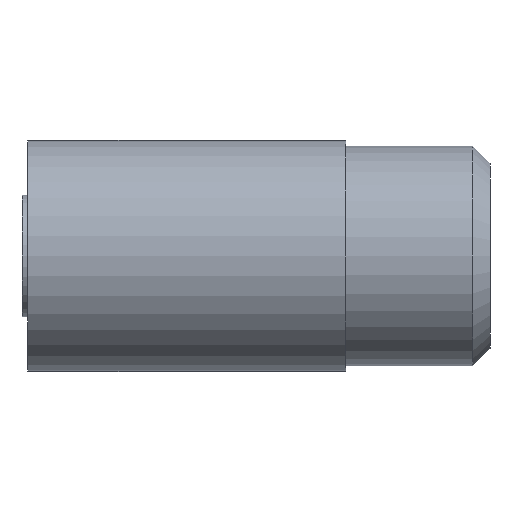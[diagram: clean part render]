
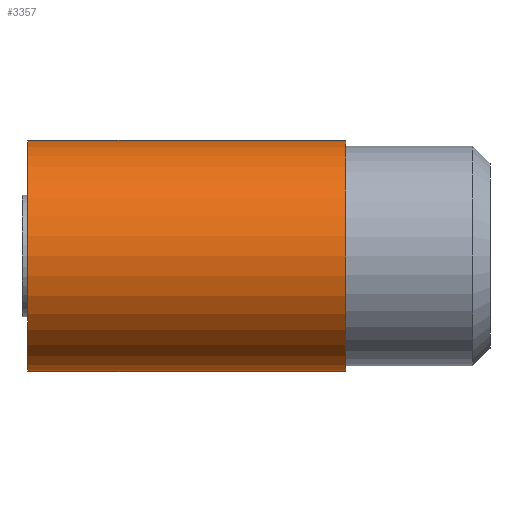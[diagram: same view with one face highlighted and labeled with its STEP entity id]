
A CAD part, left-side view. The second image highlights one B-rep face of the part: STEP entity #3357.
In plain terms, the highlighted cylindrical face has radius 2 mm (diameter 4 mm), a full revolution.
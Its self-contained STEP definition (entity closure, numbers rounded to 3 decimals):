
#289 = DIRECTION ( 'NONE',  ( 0., -1., 0. ) ) ;
#489 = CYLINDRICAL_SURFACE ( 'NONE', #3257, 2. ) ;
#511 = ORIENTED_EDGE ( 'NONE', *, *, #1324, .F. ) ;
#683 = FACE_OUTER_BOUND ( 'NONE', #2859, .T. ) ;
#874 = CARTESIAN_POINT ( 'NONE',  ( 2., 2.5, 0. ) ) ;
#912 = VERTEX_POINT ( 'NONE', #874 ) ;
#1100 = AXIS2_PLACEMENT_3D ( 'NONE', #3464, #3762, #3791 ) ;
#1260 = CIRCLE ( 'NONE', #1100, 2. ) ;
#1324 = EDGE_CURVE ( 'NONE', #912, #912, #1963, .T. ) ;
#1355 = EDGE_CURVE ( 'NONE', #3246, #3246, #1260, .T. ) ;
#1784 = DIRECTION ( 'NONE',  ( 1., 0., 0. ) ) ;
#1963 = CIRCLE ( 'NONE', #3459, 2. ) ;
#2164 = FACE_OUTER_BOUND ( 'NONE', #2611, .T. ) ;
#2544 = CARTESIAN_POINT ( 'NONE',  ( 0., 2.5, 0. ) ) ;
#2611 = EDGE_LOOP ( 'NONE', ( #2842 ) ) ;
#2833 = DIRECTION ( 'NONE',  ( 0., -1., 0. ) ) ;
#2842 = ORIENTED_EDGE ( 'NONE', *, *, #1355, .T. ) ;
#2859 = EDGE_LOOP ( 'NONE', ( #511 ) ) ;
#3246 = VERTEX_POINT ( 'NONE', #3565 ) ;
#3257 = AXIS2_PLACEMENT_3D ( 'NONE', #3801, #289, #1784 ) ;
#3357 = ADVANCED_FACE ( 'NONE', ( #683, #2164 ), #489, .T. ) ;
#3459 = AXIS2_PLACEMENT_3D ( 'NONE', #2544, #2833, #3727 ) ;
#3464 = CARTESIAN_POINT ( 'NONE',  ( 0., 8., 0. ) ) ;
#3565 = CARTESIAN_POINT ( 'NONE',  ( 2., 8., 0. ) ) ;
#3727 = DIRECTION ( 'NONE',  ( 1., 0., 0. ) ) ;
#3762 = DIRECTION ( 'NONE',  ( 0., -1., 0. ) ) ;
#3791 = DIRECTION ( 'NONE',  ( 1., 0., 0. ) ) ;
#3801 = CARTESIAN_POINT ( 'NONE',  ( 0., 2.5, 0. ) ) ;
